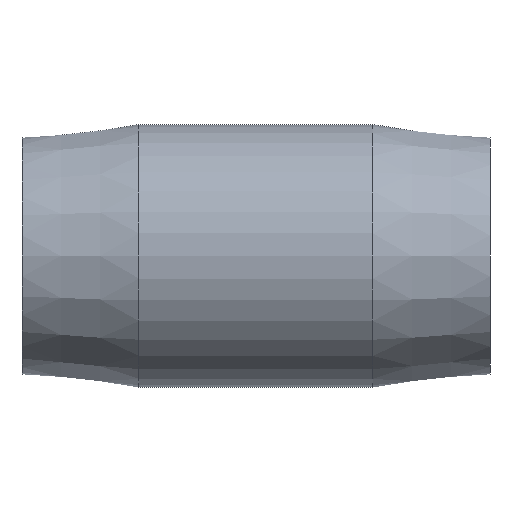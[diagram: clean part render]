
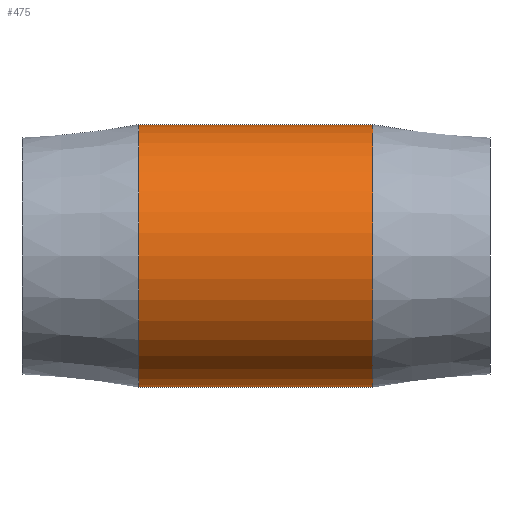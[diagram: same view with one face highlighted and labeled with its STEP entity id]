
A CAD part, front view. The second image highlights one B-rep face of the part: STEP entity #475.
In plain terms, the highlighted cylindrical face has radius 22.479 mm (diameter 44.958 mm), a full revolution.
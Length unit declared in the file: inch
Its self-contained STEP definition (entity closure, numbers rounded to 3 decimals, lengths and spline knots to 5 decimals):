
#47=LINE('',#894,#63);
#63=VECTOR('',#649,0.885);
#77=CYLINDRICAL_SURFACE('',#537,0.885);
#97=FACE_OUTER_BOUND('',#131,.T.);
#131=EDGE_LOOP('',(#357,#358,#359,#360,#361,#362,#363,#364));
#163=CIRCLE('',#533,0.885);
#164=CIRCLE('',#536,0.885);
#165=CIRCLE('',#538,0.885);
#166=CIRCLE('',#539,0.885);
#167=CIRCLE('',#540,0.885);
#168=CIRCLE('',#541,0.885);
#207=VERTEX_POINT('',#785);
#210=VERTEX_POINT('',#808);
#211=VERTEX_POINT('',#839);
#213=VERTEX_POINT('',#849);
#215=VERTEX_POINT('',#891);
#216=VERTEX_POINT('',#893);
#264=EDGE_CURVE('',#210,#207,#163,.T.);
#270=EDGE_CURVE('',#213,#211,#164,.T.);
#271=EDGE_CURVE('',#215,#210,#165,.T.);
#272=EDGE_CURVE('',#215,#216,#47,.T.);
#273=EDGE_CURVE('',#216,#213,#166,.T.);
#274=EDGE_CURVE('',#211,#216,#167,.T.);
#275=EDGE_CURVE('',#207,#215,#168,.T.);
#357=ORIENTED_EDGE('',*,*,#264,.F.);
#358=ORIENTED_EDGE('',*,*,#271,.F.);
#359=ORIENTED_EDGE('',*,*,#272,.T.);
#360=ORIENTED_EDGE('',*,*,#273,.T.);
#361=ORIENTED_EDGE('',*,*,#270,.T.);
#362=ORIENTED_EDGE('',*,*,#274,.T.);
#363=ORIENTED_EDGE('',*,*,#272,.F.);
#364=ORIENTED_EDGE('',*,*,#275,.F.);
#475=ADVANCED_FACE('',(#97),#77,.T.);
#533=AXIS2_PLACEMENT_3D('',#837,#636,#637);
#536=AXIS2_PLACEMENT_3D('',#889,#643,#644);
#537=AXIS2_PLACEMENT_3D('',#890,#645,#646);
#538=AXIS2_PLACEMENT_3D('',#892,#647,#648);
#539=AXIS2_PLACEMENT_3D('',#895,#650,#651);
#540=AXIS2_PLACEMENT_3D('',#896,#652,#653);
#541=AXIS2_PLACEMENT_3D('',#897,#654,#655);
#636=DIRECTION('center_axis',(1.,0.,0.));
#637=DIRECTION('ref_axis',(0.,0.,-1.));
#643=DIRECTION('center_axis',(1.,0.,0.));
#644=DIRECTION('ref_axis',(0.,0.,-1.));
#645=DIRECTION('center_axis',(1.,0.,0.));
#646=DIRECTION('ref_axis',(0.,1.,0.));
#647=DIRECTION('center_axis',(1.,0.,0.));
#648=DIRECTION('ref_axis',(0.,0.,-1.));
#649=DIRECTION('',(-1.,0.,0.));
#650=DIRECTION('center_axis',(1.,0.,0.));
#651=DIRECTION('ref_axis',(0.,0.,-1.));
#652=DIRECTION('center_axis',(1.,0.,0.));
#653=DIRECTION('ref_axis',(0.,0.,-1.));
#654=DIRECTION('center_axis',(1.,0.,0.));
#655=DIRECTION('ref_axis',(0.,0.,-1.));
#785=CARTESIAN_POINT('',(0.7875,0.86567,0.18394));
#808=CARTESIAN_POINT('',(0.7875,0.86567,-0.18394));
#837=CARTESIAN_POINT('Origin',(0.7875,0.,0.));
#839=CARTESIAN_POINT('',(-0.7875,0.86567,0.18394));
#849=CARTESIAN_POINT('',(-0.7875,0.86567,-0.18394));
#889=CARTESIAN_POINT('Origin',(-0.7875,0.,0.));
#890=CARTESIAN_POINT('Origin',(0.,0.,0.));
#891=CARTESIAN_POINT('',(0.7875,-0.885,0.));
#892=CARTESIAN_POINT('Origin',(0.7875,0.,0.));
#893=CARTESIAN_POINT('',(-0.7875,-0.885,0.));
#894=CARTESIAN_POINT('',(0.,-0.885,0.));
#895=CARTESIAN_POINT('Origin',(-0.7875,0.,0.));
#896=CARTESIAN_POINT('Origin',(-0.7875,0.,0.));
#897=CARTESIAN_POINT('Origin',(0.7875,0.,0.));
